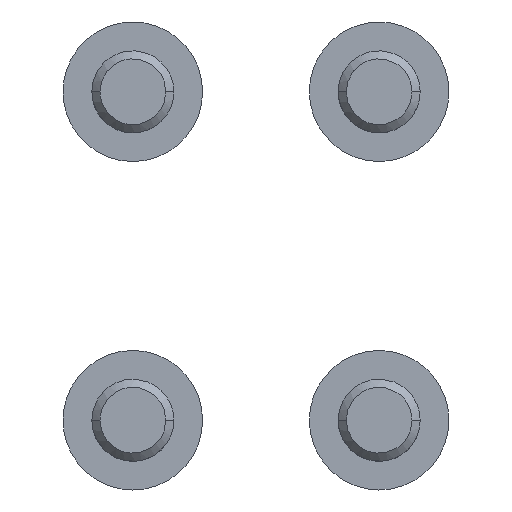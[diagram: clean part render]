
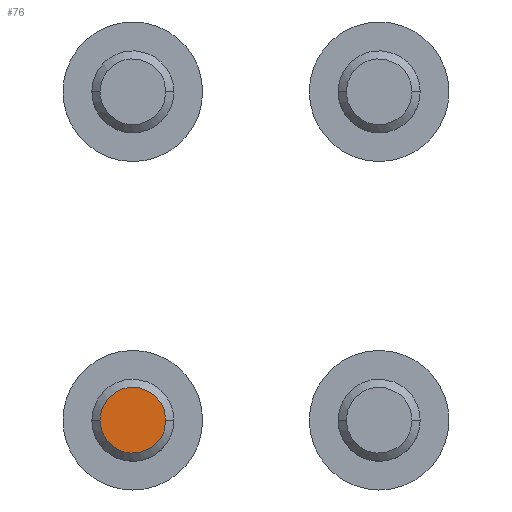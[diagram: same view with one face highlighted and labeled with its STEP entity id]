
A CAD part, left-side view. The second image highlights one B-rep face of the part: STEP entity #76.
In plain terms, the highlighted planar face has unit normal (-1, 0, 0) as drawn and (1, 0, 0) by its records, which use the part's own axes.
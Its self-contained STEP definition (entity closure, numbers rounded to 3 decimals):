
#76=ADVANCED_FACE('',(#101),#774,.T.);
#101=FACE_OUTER_BOUND('',#126,.T.);
#126=EDGE_LOOP('',(#213,#214));
#213=ORIENTED_EDGE('',*,*,#561,.F.);
#214=ORIENTED_EDGE('',*,*,#597,.T.);
#248=(
BOUNDED_CURVE()
B_SPLINE_CURVE(2,(#1191,#1192,#1193,#1194,#1195),.UNSPECIFIED.,.F.,.F.)
B_SPLINE_CURVE_WITH_KNOTS((3,2,3),(0.,3.157,6.313),
 .UNSPECIFIED.)
CURVE()
GEOMETRIC_REPRESENTATION_ITEM()
RATIONAL_B_SPLINE_CURVE((1.,0.707,1.,0.707,1.))
REPRESENTATION_ITEM('')
);
#265=(
BOUNDED_CURVE()
B_SPLINE_CURVE(2,(#1412,#1413,#1414,#1415,#1416),.UNSPECIFIED.,.F.,.F.)
B_SPLINE_CURVE_WITH_KNOTS((3,2,3),(0.,3.157,6.313),
 .UNSPECIFIED.)
CURVE()
GEOMETRIC_REPRESENTATION_ITEM()
RATIONAL_B_SPLINE_CURVE((1.,0.707,1.,0.707,1.))
REPRESENTATION_ITEM('')
);
#266=(
BOUNDED_CURVE()
B_SPLINE_CURVE(2,(#1417,#1418,#1419,#1420,#1421),.UNSPECIFIED.,.F.,.F.)
B_SPLINE_CURVE_WITH_KNOTS((3,2,3),(-6.313,-3.157,0.),
 .UNSPECIFIED.)
CURVE()
GEOMETRIC_REPRESENTATION_ITEM()
RATIONAL_B_SPLINE_CURVE((1.,0.707,1.,0.707,1.))
REPRESENTATION_ITEM('')
);
#267=(
BOUNDED_CURVE()
B_SPLINE_CURVE(2,(#1422,#1423,#1424,#1425,#1426),.UNSPECIFIED.,.F.,.F.)
B_SPLINE_CURVE_WITH_KNOTS((3,2,3),(-6.313,-3.157,0.),
 .UNSPECIFIED.)
CURVE()
GEOMETRIC_REPRESENTATION_ITEM()
RATIONAL_B_SPLINE_CURVE((1.,0.707,1.,0.707,1.))
REPRESENTATION_ITEM('')
);
#292=PCURVE('',#780,#400);
#357=PCURVE('',#774,#465);
#358=PCURVE('',#774,#466);
#362=PCURVE('',#783,#470);
#400=DEFINITIONAL_REPRESENTATION('',(#623),#1535);
#465=DEFINITIONAL_REPRESENTATION('',(#265),#1535);
#466=DEFINITIONAL_REPRESENTATION('',(#267),#1535);
#470=DEFINITIONAL_REPRESENTATION('',(#710),#1535);
#507=SURFACE_CURVE('',#248,(#292,#357),.PCURVE_S1.);
#543=SURFACE_CURVE('',#266,(#358,#362),.PCURVE_S1.);
#561=EDGE_CURVE('',#739,#740,#507,.T.);
#597=EDGE_CURVE('',#739,#740,#543,.T.);
#623=B_SPLINE_CURVE_WITH_KNOTS('',1,(#1196,#1197),.UNSPECIFIED.,.F.,.F.,
(2,2),(0.,6.313),.UNSPECIFIED.);
#710=B_SPLINE_CURVE_WITH_KNOTS('',1,(#1438,#1439),.UNSPECIFIED.,.F.,.F.,
(2,2),(-6.313,0.),.UNSPECIFIED.);
#739=VERTEX_POINT('',#1103);
#740=VERTEX_POINT('',#1104);
#774=PLANE('',#847);
#780=(
BOUNDED_SURFACE()
B_SPLINE_SURFACE(2,1,((#952,#953),(#954,#955),(#956,#957),(#958,#959),(#960,
#961),(#962,#963),(#964,#965),(#966,#967),(#968,#969)),.UNSPECIFIED.,.T.,
 .F.,.F.)
B_SPLINE_SURFACE_WITH_KNOTS((3,2,2,2,3),(2,2),(0.,1.571,3.142,
4.712,6.283),(0.,3.891),.UNSPECIFIED.)
GEOMETRIC_REPRESENTATION_ITEM()
RATIONAL_B_SPLINE_SURFACE(((1.,1.),(0.707,0.707),
(1.,1.),(0.707,0.707),(1.,1.),(0.707,
0.707),(1.,1.),(0.707,0.707),(1.,1.)))
REPRESENTATION_ITEM('')
SURFACE()
);
#783=(
BOUNDED_SURFACE()
B_SPLINE_SURFACE(2,1,((#1019,#1020),(#1021,#1022),(#1023,#1024),(#1025,#1026),
(#1027,#1028),(#1029,#1030),(#1031,#1032),(#1033,#1034),(#1035,#1036)),
 .UNSPECIFIED.,.T.,.F.,.F.)
B_SPLINE_SURFACE_WITH_KNOTS((3,2,2,2,3),(2,2),(0.,1.571,3.142,
4.712,6.283),(0.,3.891),.UNSPECIFIED.)
GEOMETRIC_REPRESENTATION_ITEM()
RATIONAL_B_SPLINE_SURFACE(((1.,1.),(0.707,0.707),
(1.,1.),(0.707,0.707),(1.,1.),(0.707,
0.707),(1.,1.),(0.707,0.707),(1.,1.)))
REPRESENTATION_ITEM('')
SURFACE()
);
#847=AXIS2_PLACEMENT_3D('',#1018,#875,$);
#875=DIRECTION('',(1.,0.,0.));
#952=CARTESIAN_POINT('',(22.01,0.,0.));
#953=CARTESIAN_POINT('',(19.258,0.,2.751));
#954=CARTESIAN_POINT('',(22.01,0.,0.));
#955=CARTESIAN_POINT('',(19.258,2.751,2.751));
#956=CARTESIAN_POINT('',(22.01,0.,0.));
#957=CARTESIAN_POINT('',(19.258,2.751,0.));
#958=CARTESIAN_POINT('',(22.01,0.,0.));
#959=CARTESIAN_POINT('',(19.258,2.751,-2.751));
#960=CARTESIAN_POINT('',(22.01,0.,0.));
#961=CARTESIAN_POINT('',(19.258,0.,-2.751));
#962=CARTESIAN_POINT('',(22.01,0.,0.));
#963=CARTESIAN_POINT('',(19.258,-2.751,-2.751));
#964=CARTESIAN_POINT('',(22.01,0.,0.));
#965=CARTESIAN_POINT('',(19.258,-2.751,0.));
#966=CARTESIAN_POINT('',(22.01,0.,0.));
#967=CARTESIAN_POINT('',(19.258,-2.751,2.751));
#968=CARTESIAN_POINT('',(22.01,0.,0.));
#969=CARTESIAN_POINT('',(19.258,0.,2.751));
#1018=CARTESIAN_POINT('',(20.,2.413,2.413));
#1019=CARTESIAN_POINT('',(22.01,0.,0.));
#1020=CARTESIAN_POINT('',(19.258,0.,-2.751));
#1021=CARTESIAN_POINT('',(22.01,0.,0.));
#1022=CARTESIAN_POINT('',(19.258,-2.751,-2.751));
#1023=CARTESIAN_POINT('',(22.01,0.,0.));
#1024=CARTESIAN_POINT('',(19.258,-2.751,0.));
#1025=CARTESIAN_POINT('',(22.01,0.,0.));
#1026=CARTESIAN_POINT('',(19.258,-2.751,2.751));
#1027=CARTESIAN_POINT('',(22.01,0.,0.));
#1028=CARTESIAN_POINT('',(19.258,0.,2.751));
#1029=CARTESIAN_POINT('',(22.01,0.,0.));
#1030=CARTESIAN_POINT('',(19.258,2.751,2.751));
#1031=CARTESIAN_POINT('',(22.01,0.,0.));
#1032=CARTESIAN_POINT('',(19.258,2.751,0.));
#1033=CARTESIAN_POINT('',(22.01,0.,0.));
#1034=CARTESIAN_POINT('',(19.258,2.751,-2.751));
#1035=CARTESIAN_POINT('',(22.01,0.,0.));
#1036=CARTESIAN_POINT('',(19.258,0.,-2.751));
#1103=CARTESIAN_POINT('',(20.,2.01,0.));
#1104=CARTESIAN_POINT('',(20.,-2.01,0.));
#1191=CARTESIAN_POINT('',(20.,2.01,0.));
#1192=CARTESIAN_POINT('',(20.,2.01,-2.01));
#1193=CARTESIAN_POINT('',(20.,0.,-2.01));
#1194=CARTESIAN_POINT('',(20.,-2.01,-2.01));
#1195=CARTESIAN_POINT('',(20.,-2.01,0.));
#1196=CARTESIAN_POINT('',(1.571,2.842));
#1197=CARTESIAN_POINT('',(4.712,2.842));
#1412=CARTESIAN_POINT('',(-1.005,0.));
#1413=CARTESIAN_POINT('',(-1.005,2.01));
#1414=CARTESIAN_POINT('',(1.005,2.01));
#1415=CARTESIAN_POINT('',(3.014,2.01));
#1416=CARTESIAN_POINT('',(3.014,0.));
#1417=CARTESIAN_POINT('',(20.,2.01,0.));
#1418=CARTESIAN_POINT('',(20.,2.01,2.01));
#1419=CARTESIAN_POINT('',(20.,0.,2.01));
#1420=CARTESIAN_POINT('',(20.,-2.01,2.01));
#1421=CARTESIAN_POINT('',(20.,-2.01,0.));
#1422=CARTESIAN_POINT('',(-1.005,0.));
#1423=CARTESIAN_POINT('',(-1.005,-2.01));
#1424=CARTESIAN_POINT('',(1.005,-2.01));
#1425=CARTESIAN_POINT('',(3.014,-2.01));
#1426=CARTESIAN_POINT('',(3.014,0.));
#1438=CARTESIAN_POINT('',(4.712,2.842));
#1439=CARTESIAN_POINT('',(1.571,2.842));
#1535=(
GEOMETRIC_REPRESENTATION_CONTEXT(2)
PARAMETRIC_REPRESENTATION_CONTEXT()
REPRESENTATION_CONTEXT('pspace','')
);
